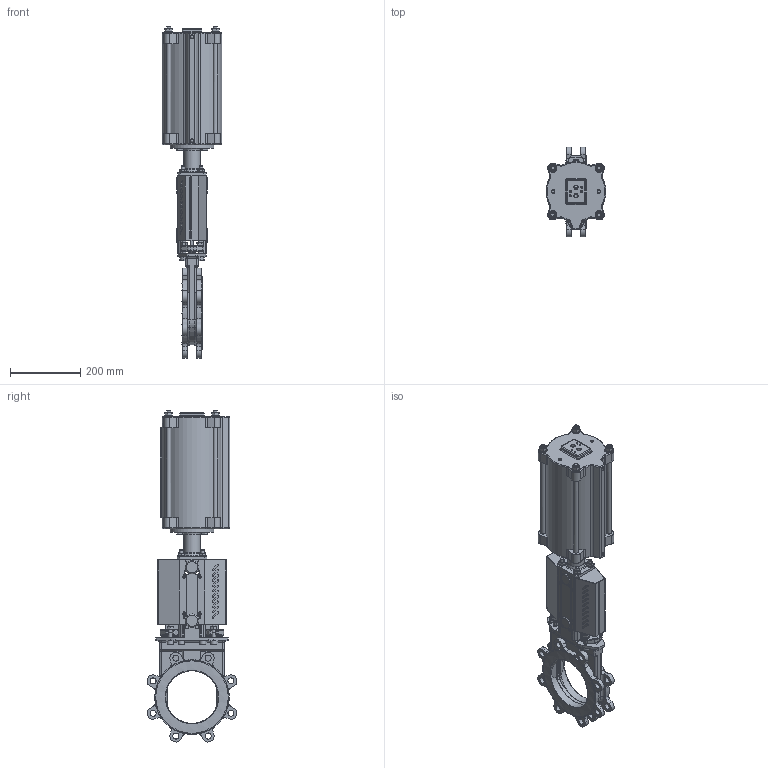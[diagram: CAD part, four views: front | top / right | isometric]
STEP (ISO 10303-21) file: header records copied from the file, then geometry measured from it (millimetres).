
FILE_DESCRIPTION(/* description */ (''),/* implementation_level */ '2;1');
FILE_NAME(/* name */ 'F:\Emir\3D-block special\WB\WB14E-DN150-PN10-FRSC160-165_Shrinkwrap_1.stp',/* time_stamp */ '2018-09-11T15:13:57+02:00',/* author */ ('EM'),/* organization */ (''),/* preprocessor_version */ 'ST-DEVELOPER v17.2',/* originating_system */ 'Autodesk Inventor 2019',/* authorisation */ '');
FILE_SCHEMA (('CONFIG_CONTROL_DESIGN'));
Products named in the file (1): WB14E-DN150-PN10-FRSC160-165_Shrinkwrap_1
Bounding box: 170 x 255.71 x 944.86 mm (x, y, z)
Volume: 4650529 mm3; surface area: 1348718.9 mm2
Topology: 2 solids, 2 shells, 2624 faces, 6854 edges, 4269 vertices
Faces by surface type: plane 1053, cylinder 781, bspline 247, cone 236, torus 231, sphere 76
Full cylindrical faces by diameter (mm): 3 x5, 4 x4, 4.134 x4, 4.2 x15, 4.5 x6, 7 x1, 8 x2, 8.376 x6, 9 x2, 9.5 x4, 10 x35, 10.5 x8, 11 x12, 11.445 x2, 12 x8, 13 x9, 14.63 x4, 15 x3, 16 x2, 17.294 x16, 17.7 x1, 18 x4, 18.376 x1, 20 x9, 24 x8, 28 x4, 30 x1, 30.1 x2, 34 x1, 35 x1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
Entity records: 91234 total; most frequent: CARTESIAN_POINT 26900, DIRECTION 13812, ORIENTED_EDGE 13602, EDGE_CURVE 6801, AXIS2_PLACEMENT_3D 5492, VERTEX_POINT 4269, EDGE_LOOP 2888, LINE 2828
